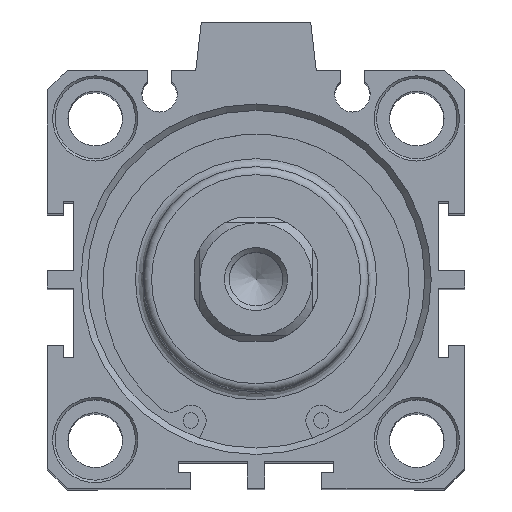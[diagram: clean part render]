
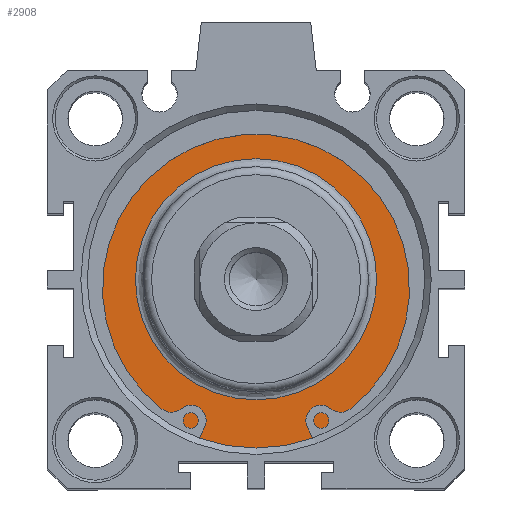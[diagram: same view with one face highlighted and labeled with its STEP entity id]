
A CAD part, top view. The second image highlights one B-rep face of the part: STEP entity #2908.
In plain terms, the highlighted planar face has unit normal (0, 0, 1).
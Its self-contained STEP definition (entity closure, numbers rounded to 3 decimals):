
#2857=CARTESIAN_POINT('',(0.598,16.555,122.4));
#2858=VERTEX_POINT('',#2857);
#2859=CARTESIAN_POINT('',(0.598,1.555,122.4));
#2860=DIRECTION('',(0.0,0.0,1.0));
#2861=DIRECTION('',(0.0,-1.0,0.0));
#2862=AXIS2_PLACEMENT_3D('',#2859,#2860,#2861);
#2863=CIRCLE('',#2862,15.);
#2864=EDGE_CURVE('',#2858,#2858,#2863,.T.);
#2889=CARTESIAN_POINT('',(0.598,19.055,122.4));
#2890=DIRECTION('',(0.0,0.0,1.0));
#2891=DIRECTION('',(1.0,0.0,0.0));
#2892=AXIS2_PLACEMENT_3D('',#2889,#2890,#2891);
#2893=PLANE('',#2892);
#2894=CARTESIAN_POINT('',(0.598,22.555,122.4));
#2895=VERTEX_POINT('',#2894);
#2896=CARTESIAN_POINT('',(0.598,1.555,122.4));
#2897=DIRECTION('',(0.0,0.0,-1.0));
#2898=DIRECTION('',(0.0,1.0,0.0));
#2899=AXIS2_PLACEMENT_3D('',#2896,#2897,#2898);
#2900=CIRCLE('',#2899,21.);
#2901=EDGE_CURVE('',#2895,#2895,#2900,.T.);
#2902=ORIENTED_EDGE('',*,*,#2901,.F.);
#2903=EDGE_LOOP('',(#2902));
#2904=FACE_OUTER_BOUND('',#2903,.T.);
#2905=ORIENTED_EDGE('',*,*,#2864,.F.);
#2906=EDGE_LOOP('',(#2905));
#2907=FACE_BOUND('',#2906,.T.);
#2908=ADVANCED_FACE('',(#2904,#2907),#2893,.T.);
